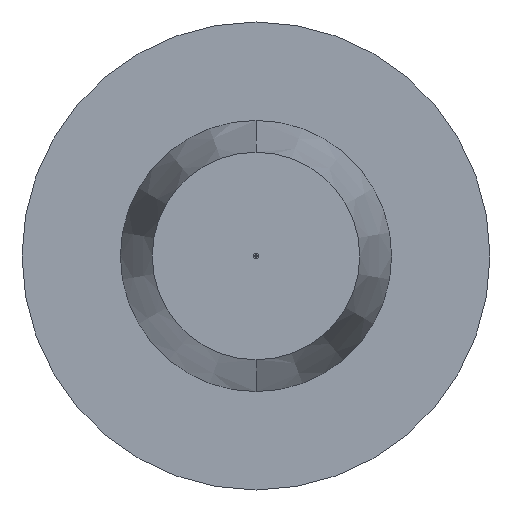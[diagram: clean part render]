
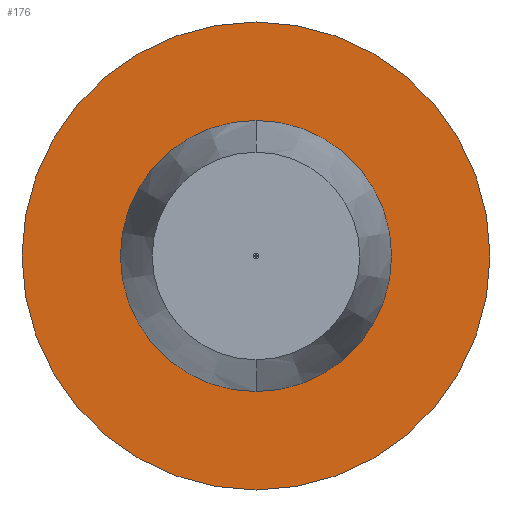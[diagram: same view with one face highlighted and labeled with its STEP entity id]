
A CAD part, front view. The second image highlights one B-rep face of the part: STEP entity #176.
In plain terms, the highlighted planar face has unit normal (0, -1, 0).
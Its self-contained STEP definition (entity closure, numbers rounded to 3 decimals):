
#1 = DIRECTION ( 'NONE',  ( 0., 0., 1. ) ) ;
#35 = EDGE_CURVE ( 'NONE', #175, #92, #483, .T. ) ;
#45 = AXIS2_PLACEMENT_3D ( 'NONE', #212, #53, #459 ) ;
#53 = DIRECTION ( 'NONE',  ( 0., 1., 0. ) ) ;
#59 = EDGE_CURVE ( 'NONE', #92, #175, #76, .T. ) ;
#61 = VERTEX_POINT ( 'NONE', #522 ) ;
#68 = PLANE ( 'NONE',  #433 ) ;
#76 = CIRCLE ( 'NONE', #386, 4.4 ) ;
#90 = EDGE_CURVE ( 'NONE', #169, #61, #145, .T. ) ;
#92 = VERTEX_POINT ( 'NONE', #446 ) ;
#95 = ORIENTED_EDGE ( 'NONE', *, *, #281, .T. ) ;
#112 = DIRECTION ( 'NONE',  ( 0., 1., 0. ) ) ;
#124 = FACE_BOUND ( 'NONE', #317, .T. ) ;
#136 = ORIENTED_EDGE ( 'NONE', *, *, #59, .F. ) ;
#145 = CIRCLE ( 'NONE', #415, 2.55 ) ;
#169 = VERTEX_POINT ( 'NONE', #527 ) ;
#175 = VERTEX_POINT ( 'NONE', #458 ) ;
#176 = ADVANCED_FACE ( 'NONE', ( #124, #532 ), #68, .F. ) ;
#199 = DIRECTION ( 'NONE',  ( 0., 1., 0. ) ) ;
#204 = CARTESIAN_POINT ( 'NONE',  ( -39., -35.8, 30.5 ) ) ;
#212 = CARTESIAN_POINT ( 'NONE',  ( -39., -35.8, 30.5 ) ) ;
#226 = DIRECTION ( 'NONE',  ( 0., 0., 1. ) ) ;
#232 = EDGE_LOOP ( 'NONE', ( #312, #136 ) ) ;
#244 = AXIS2_PLACEMENT_3D ( 'NONE', #476, #263, #437 ) ;
#257 = ORIENTED_EDGE ( 'NONE', *, *, #90, .T. ) ;
#263 = DIRECTION ( 'NONE',  ( 0., 1., 0. ) ) ;
#266 = CARTESIAN_POINT ( 'NONE',  ( -39., -35.8, 30.5 ) ) ;
#281 = EDGE_CURVE ( 'NONE', #61, #169, #423, .T. ) ;
#312 = ORIENTED_EDGE ( 'NONE', *, *, #35, .F. ) ;
#317 = EDGE_LOOP ( 'NONE', ( #257, #95 ) ) ;
#373 = DIRECTION ( 'NONE',  ( 0., 0., 1. ) ) ;
#386 = AXIS2_PLACEMENT_3D ( 'NONE', #266, #439, #226 ) ;
#415 = AXIS2_PLACEMENT_3D ( 'NONE', #204, #199, #373 ) ;
#423 = CIRCLE ( 'NONE', #45, 2.55 ) ;
#433 = AXIS2_PLACEMENT_3D ( 'NONE', #535, #112, #1 ) ;
#437 = DIRECTION ( 'NONE',  ( 0., 0., 1. ) ) ;
#439 = DIRECTION ( 'NONE',  ( 0., 1., 0. ) ) ;
#446 = CARTESIAN_POINT ( 'NONE',  ( -39., -35.8, 34.9 ) ) ;
#458 = CARTESIAN_POINT ( 'NONE',  ( -39., -35.8, 26.1 ) ) ;
#459 = DIRECTION ( 'NONE',  ( 0., 0., 1. ) ) ;
#476 = CARTESIAN_POINT ( 'NONE',  ( -39., -35.8, 30.5 ) ) ;
#483 = CIRCLE ( 'NONE', #244, 4.4 ) ;
#522 = CARTESIAN_POINT ( 'NONE',  ( -39., -35.8, 27.95 ) ) ;
#527 = CARTESIAN_POINT ( 'NONE',  ( -39., -35.8, 33.05 ) ) ;
#532 = FACE_OUTER_BOUND ( 'NONE', #232, .T. ) ;
#535 = CARTESIAN_POINT ( 'NONE',  ( -39., -35.8, 30.5 ) ) ;
